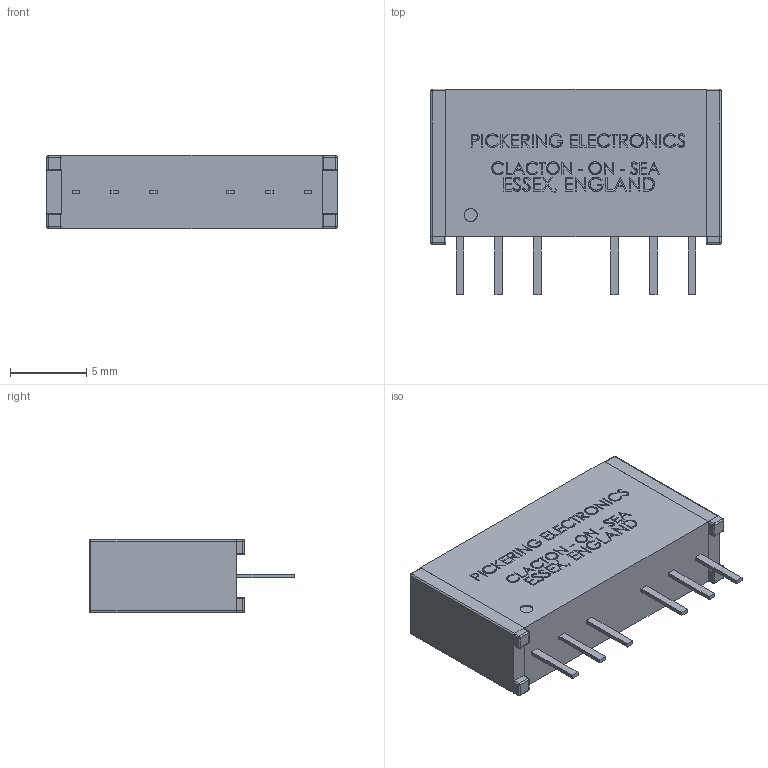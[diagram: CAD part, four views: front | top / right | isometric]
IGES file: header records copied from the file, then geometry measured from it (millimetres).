
Start section: SolidWorks IGES file using analytic representation for surfaces
Global section: file name: T:\Relays in Solidworks\Batch 2\102M-1-B.IGS; native system: SolidWorks 2009; preprocessor: SolidWorks 2009; author: alex.leming; date: 100629.141208; units: millimetre
Bounding box: 19.1 x 13.5 x 4.8 mm (x, y, z)
Surface area: 909.6 mm2 (no closed solid volume)
Topology: 0 solids, 0 shells, 1095 faces, 8980 edges, 8960 vertices
Faces by surface type: bspline 1031, revolution 64
